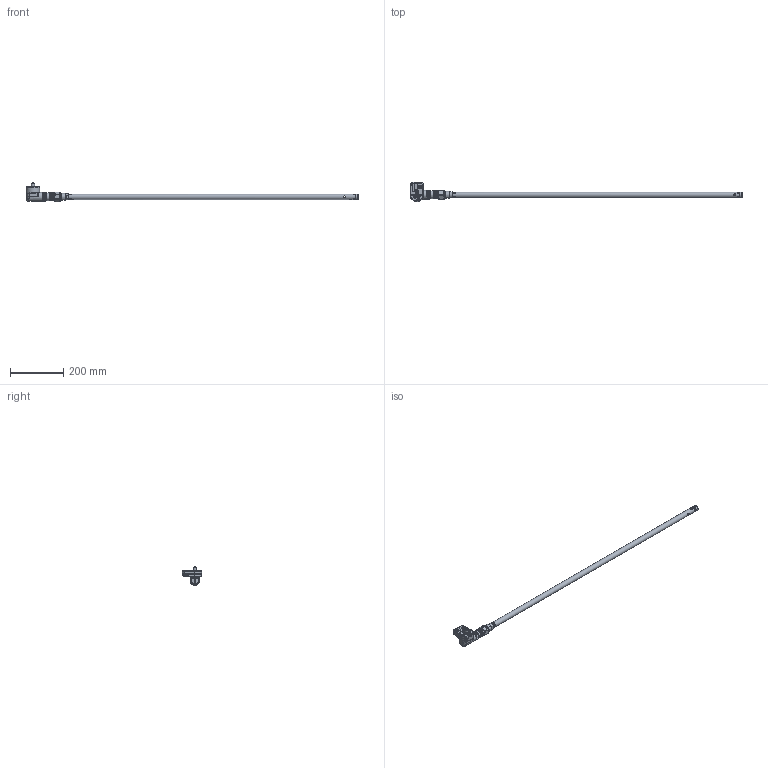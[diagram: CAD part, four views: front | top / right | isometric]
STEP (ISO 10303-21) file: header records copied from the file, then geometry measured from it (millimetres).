
FILE_DESCRIPTION(/* description */ (''),/* implementation_level */ '2;1');
FILE_NAME(/* name */ 'R:\Mekanisk design\HBLT-A3\5. STEP files\HBLT-A3-11-6.stp',/* time_stamp */ '2023-01-10T15:03:18+01:00',/* author */ ('ma'),/* organization */ (''),/* preprocessor_version */ 'ST-DEVELOPER v18.1',/* originating_system */ 'Autodesk Inventor 2021',/* authorisation */ '');
FILE_SCHEMA (('AUTOMOTIVE_DESIGN { 1 0 10303 214 3 1 1 }'));
Products named in the file (1): HBLT-A3-BSPP-Komp-R1_Shrinkwrap_4
Bounding box: 1248.3 x 72 x 71.99 mm (x, y, z)
Volume: 147944.9 mm3; surface area: 199600.4 mm2
Topology: 11 solids, 11 shells, 1403 faces, 3519 edges, 2229 vertices
Faces by surface type: plane 724, cylinder 263, bspline 201, cone 164, torus 43, sphere 8
Full cylindrical faces by diameter (mm): 3 x3, 3.2 x1, 3.6 x3, 4 x12, 4.2 x1, 4.7 x1, 5 x2, 6.647 x1, 8 x4, 8.5 x1, 10 x4, 10.1 x1, 10.4 x1, 10.917 x1, 12 x1, 12.5 x2, 13 x1, 15.5 x1, 17.9 x2, 18 x3, 19 x2, 20 x5, 22 x1, 23.8 x1, 24 x4, 25 x1, 25.376 x1, 25.4 x1, 26 x2, 26.8 x1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
Entity records: 51692 total; most frequent: CARTESIAN_POINT 18663, ORIENTED_EDGE 7030, DIRECTION 5856, EDGE_CURVE 3515, VERTEX_POINT 2229, AXIS2_PLACEMENT_3D 2004, LINE 1848, VECTOR 1848
